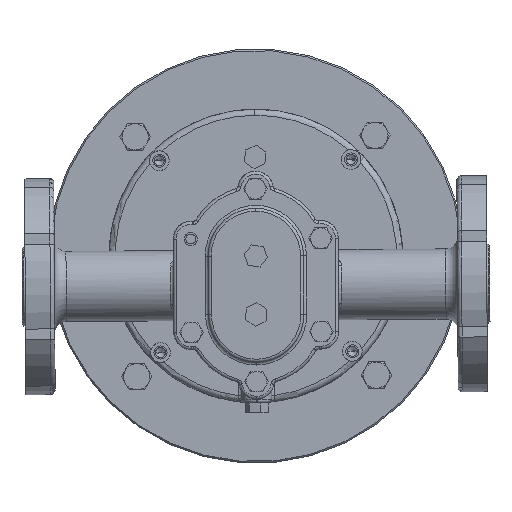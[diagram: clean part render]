
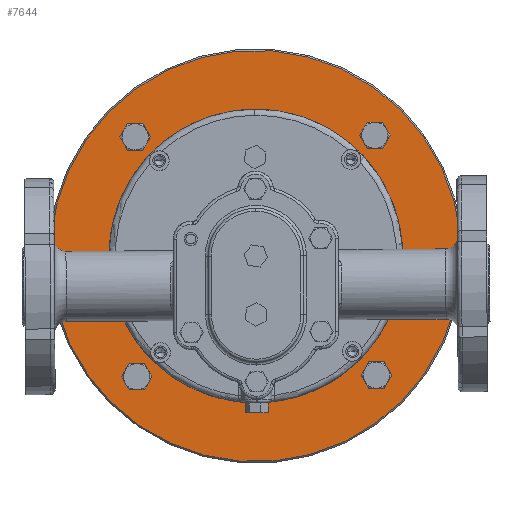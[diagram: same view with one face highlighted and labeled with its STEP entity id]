
A CAD part, front view. The second image highlights one B-rep face of the part: STEP entity #7644.
In plain terms, the highlighted planar face has unit normal (0, -1, 0) as drawn and (0, 0, 1) by its records, which use the part's own axes.
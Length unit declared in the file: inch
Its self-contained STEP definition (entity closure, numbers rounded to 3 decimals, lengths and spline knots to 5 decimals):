
#119 = CARTESIAN_POINT ( 'NONE',  ( 3.625, 0., 0.6 ) ) ;
#220 = DIRECTION ( 'NONE',  ( 0., 0., 1. ) ) ;
#291 = AXIS2_PLACEMENT_3D ( 'NONE', #2654, #14392, #17741 ) ;
#666 = VERTEX_POINT ( 'NONE', #15405 ) ;
#2315 = AXIS2_PLACEMENT_3D ( 'NONE', #35184, #7825, #17142 ) ;
#2654 = CARTESIAN_POINT ( 'NONE',  ( 0., -3.625, 0.6 ) ) ;
#2689 = CIRCLE ( 'NONE', #29929, 4.39875 ) ;
#3254 = VERTEX_POINT ( 'NONE', #34407 ) ;
#3399 = CARTESIAN_POINT ( 'NONE',  ( 3.34375, 0., 0.6 ) ) ;
#4102 = ORIENTED_EDGE ( 'NONE', *, *, #16296, .T. ) ;
#4148 = CARTESIAN_POINT ( 'NONE',  ( -3.625, 0., 0.6 ) ) ;
#4697 = FACE_BOUND ( 'NONE', #16532, .T. ) ;
#5139 = CIRCLE ( 'NONE', #23536, 0.28125 ) ;
#5216 = ORIENTED_EDGE ( 'NONE', *, *, #27953, .F. ) ;
#5776 = CARTESIAN_POINT ( 'NONE',  ( 0., 0., 0.6 ) ) ;
#6291 = DIRECTION ( 'NONE',  ( 1., 0., 0. ) ) ;
#6371 = CIRCLE ( 'NONE', #22784, 0.28125 ) ;
#6379 = ORIENTED_EDGE ( 'NONE', *, *, #28675, .F. ) ;
#6385 = DIRECTION ( 'NONE',  ( 0., 0., 1. ) ) ;
#6546 = ORIENTED_EDGE ( 'NONE', *, *, #36673, .F. ) ;
#6613 = EDGE_LOOP ( 'NONE', ( #6379, #37504 ) ) ;
#6661 = VERTEX_POINT ( 'NONE', #8800 ) ;
#7644 = ADVANCED_FACE ( 'NONE', ( #35042, #31867, #4697, #7886, #17398, #37810 ), #20171, .T. ) ;
#7760 = AXIS2_PLACEMENT_3D ( 'NONE', #12466, #36246, #6291 ) ;
#7825 = DIRECTION ( 'NONE',  ( 0., 0., 1. ) ) ;
#7886 = FACE_BOUND ( 'NONE', #24870, .T. ) ;
#7902 = CARTESIAN_POINT ( 'NONE',  ( 4.39875, 0., 0.6 ) ) ;
#8242 = DIRECTION ( 'NONE',  ( 0., 0., 1. ) ) ;
#8248 = CARTESIAN_POINT ( 'NONE',  ( 3.90625, 0., 0.6 ) ) ;
#8800 = CARTESIAN_POINT ( 'NONE',  ( -0.28125, 3.625, 0.6 ) ) ;
#9201 = DIRECTION ( 'NONE',  ( 0., 0., 1. ) ) ;
#9216 = EDGE_LOOP ( 'NONE', ( #9729, #6546 ) ) ;
#9273 = EDGE_CURVE ( 'NONE', #6661, #3254, #22183, .T. ) ;
#9384 = CARTESIAN_POINT ( 'NONE',  ( 0., 0., 0.6 ) ) ;
#9729 = ORIENTED_EDGE ( 'NONE', *, *, #26517, .F. ) ;
#9777 = DIRECTION ( 'NONE',  ( 0., 0., 1. ) ) ;
#10024 = AXIS2_PLACEMENT_3D ( 'NONE', #26314, #16798, #11260 ) ;
#10300 = VERTEX_POINT ( 'NONE', #7902 ) ;
#10475 = CARTESIAN_POINT ( 'NONE',  ( 0.28125, -3.625, 0.6 ) ) ;
#10639 = VERTEX_POINT ( 'NONE', #8248 ) ;
#11248 = VERTEX_POINT ( 'NONE', #11761 ) ;
#11260 = DIRECTION ( 'NONE',  ( 1., 0., 0. ) ) ;
#11761 = CARTESIAN_POINT ( 'NONE',  ( -2.5, 0., 0.6 ) ) ;
#11981 = DIRECTION ( 'NONE',  ( 1., 0., 0. ) ) ;
#12314 = DIRECTION ( 'NONE',  ( 0., 0., 1. ) ) ;
#12366 = CARTESIAN_POINT ( 'NONE',  ( 0., 0., 0.6 ) ) ;
#12380 = CARTESIAN_POINT ( 'NONE',  ( 0., 3.625, 0.6 ) ) ;
#12466 = CARTESIAN_POINT ( 'NONE',  ( -3.625, 0., 0.6 ) ) ;
#12887 = CARTESIAN_POINT ( 'NONE',  ( -4.39875, 0., 0.6 ) ) ;
#13052 = DIRECTION ( 'NONE',  ( 0., 0., 1. ) ) ;
#13719 = CIRCLE ( 'NONE', #27630, 2.5 ) ;
#14159 = ORIENTED_EDGE ( 'NONE', *, *, #9273, .F. ) ;
#14208 = EDGE_CURVE ( 'NONE', #28657, #11248, #13719, .T. ) ;
#14392 = DIRECTION ( 'NONE',  ( 0., 0., 1. ) ) ;
#15126 = ORIENTED_EDGE ( 'NONE', *, *, #31815, .F. ) ;
#15405 = CARTESIAN_POINT ( 'NONE',  ( -0.28125, -3.625, 0.6 ) ) ;
#16257 = CARTESIAN_POINT ( 'NONE',  ( 0., 3.625, 0.6 ) ) ;
#16296 = EDGE_CURVE ( 'NONE', #33902, #10300, #36722, .T. ) ;
#16532 = EDGE_LOOP ( 'NONE', ( #29995, #15126 ) ) ;
#16798 = DIRECTION ( 'NONE',  ( 0., 0., 1. ) ) ;
#17142 = DIRECTION ( 'NONE',  ( 1., 0., 0. ) ) ;
#17398 = FACE_BOUND ( 'NONE', #19300, .T. ) ;
#17402 = DIRECTION ( 'NONE',  ( 1., 0., 0. ) ) ;
#17741 = DIRECTION ( 'NONE',  ( 1., 0., 0. ) ) ;
#18136 = CARTESIAN_POINT ( 'NONE',  ( -3.90625, 0., 0.6 ) ) ;
#19300 = EDGE_LOOP ( 'NONE', ( #5216, #14159 ) ) ;
#20171 = PLANE ( 'NONE',  #10024 ) ;
#20766 = CIRCLE ( 'NONE', #28987, 0.28125 ) ;
#21537 = DIRECTION ( 'NONE',  ( 1., 0., 0. ) ) ;
#21683 = CIRCLE ( 'NONE', #7760, 0.28125 ) ;
#22112 = EDGE_CURVE ( 'NONE', #36332, #666, #30695, .T. ) ;
#22183 = CIRCLE ( 'NONE', #35474, 0.28125 ) ;
#22248 = ORIENTED_EDGE ( 'NONE', *, *, #29201, .T. ) ;
#22624 = DIRECTION ( 'NONE',  ( 1., 0., 0. ) ) ;
#22689 = VERTEX_POINT ( 'NONE', #3399 ) ;
#22784 = AXIS2_PLACEMENT_3D ( 'NONE', #25685, #8242, #32415 ) ;
#23536 = AXIS2_PLACEMENT_3D ( 'NONE', #16257, #37276, #17402 ) ;
#23704 = CARTESIAN_POINT ( 'NONE',  ( 2.5, 0., 0.6 ) ) ;
#24555 = DIRECTION ( 'NONE',  ( 1., 0., 0. ) ) ;
#24706 = AXIS2_PLACEMENT_3D ( 'NONE', #27711, #13052, #24555 ) ;
#24870 = EDGE_LOOP ( 'NONE', ( #29009, #25513 ) ) ;
#25092 = EDGE_CURVE ( 'NONE', #33213, #28400, #31452, .T. ) ;
#25113 = CIRCLE ( 'NONE', #2315, 0.28125 ) ;
#25513 = ORIENTED_EDGE ( 'NONE', *, *, #25092, .F. ) ;
#25685 = CARTESIAN_POINT ( 'NONE',  ( 0., -3.625, 0.6 ) ) ;
#25758 = AXIS2_PLACEMENT_3D ( 'NONE', #4148, #12314, #36661 ) ;
#26314 = CARTESIAN_POINT ( 'NONE',  ( 0., 0., 0.6 ) ) ;
#26517 = EDGE_CURVE ( 'NONE', #10639, #22689, #25113, .T. ) ;
#26726 = CIRCLE ( 'NONE', #27381, 2.5 ) ;
#27381 = AXIS2_PLACEMENT_3D ( 'NONE', #9384, #9777, #11981 ) ;
#27630 = AXIS2_PLACEMENT_3D ( 'NONE', #12366, #6385, #38935 ) ;
#27711 = CARTESIAN_POINT ( 'NONE',  ( 0., 0., 0.6 ) ) ;
#27953 = EDGE_CURVE ( 'NONE', #3254, #6661, #5139, .T. ) ;
#28400 = VERTEX_POINT ( 'NONE', #34794 ) ;
#28657 = VERTEX_POINT ( 'NONE', #23704 ) ;
#28675 = EDGE_CURVE ( 'NONE', #11248, #28657, #26726, .T. ) ;
#28987 = AXIS2_PLACEMENT_3D ( 'NONE', #119, #33833, #21537 ) ;
#29009 = ORIENTED_EDGE ( 'NONE', *, *, #35293, .F. ) ;
#29201 = EDGE_CURVE ( 'NONE', #10300, #33902, #2689, .T. ) ;
#29929 = AXIS2_PLACEMENT_3D ( 'NONE', #5776, #220, #22624 ) ;
#29995 = ORIENTED_EDGE ( 'NONE', *, *, #22112, .F. ) ;
#30695 = CIRCLE ( 'NONE', #291, 0.28125 ) ;
#31452 = CIRCLE ( 'NONE', #25758, 0.28125 ) ;
#31815 = EDGE_CURVE ( 'NONE', #666, #36332, #6371, .T. ) ;
#31867 = FACE_BOUND ( 'NONE', #9216, .T. ) ;
#32415 = DIRECTION ( 'NONE',  ( 1., 0., 0. ) ) ;
#33213 = VERTEX_POINT ( 'NONE', #18136 ) ;
#33833 = DIRECTION ( 'NONE',  ( 0., 0., 1. ) ) ;
#33902 = VERTEX_POINT ( 'NONE', #12887 ) ;
#34407 = CARTESIAN_POINT ( 'NONE',  ( 0.28125, 3.625, 0.6 ) ) ;
#34794 = CARTESIAN_POINT ( 'NONE',  ( -3.34375, 0., 0.6 ) ) ;
#35042 = FACE_OUTER_BOUND ( 'NONE', #38757, .T. ) ;
#35184 = CARTESIAN_POINT ( 'NONE',  ( 3.625, 0., 0.6 ) ) ;
#35293 = EDGE_CURVE ( 'NONE', #28400, #33213, #21683, .T. ) ;
#35474 = AXIS2_PLACEMENT_3D ( 'NONE', #12380, #9201, #36155 ) ;
#36155 = DIRECTION ( 'NONE',  ( 1., 0., 0. ) ) ;
#36246 = DIRECTION ( 'NONE',  ( 0., 0., 1. ) ) ;
#36332 = VERTEX_POINT ( 'NONE', #10475 ) ;
#36661 = DIRECTION ( 'NONE',  ( 1., 0., 0. ) ) ;
#36673 = EDGE_CURVE ( 'NONE', #22689, #10639, #20766, .T. ) ;
#36722 = CIRCLE ( 'NONE', #24706, 4.39875 ) ;
#37276 = DIRECTION ( 'NONE',  ( 0., 0., 1. ) ) ;
#37504 = ORIENTED_EDGE ( 'NONE', *, *, #14208, .F. ) ;
#37810 = FACE_BOUND ( 'NONE', #6613, .T. ) ;
#38757 = EDGE_LOOP ( 'NONE', ( #4102, #22248 ) ) ;
#38935 = DIRECTION ( 'NONE',  ( 1., 0., 0. ) ) ;
